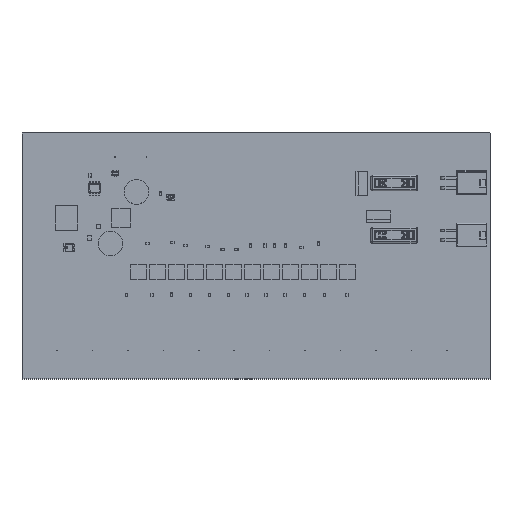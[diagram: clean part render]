
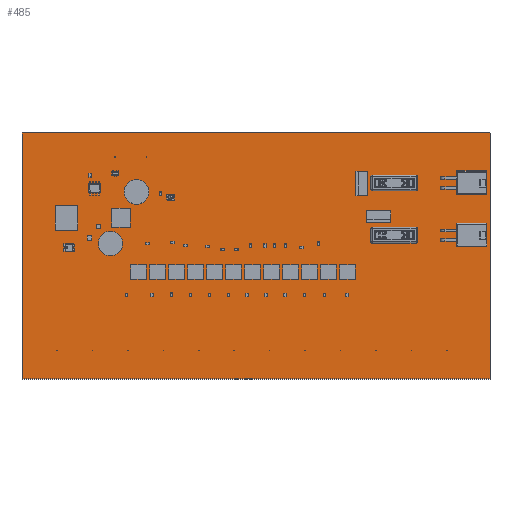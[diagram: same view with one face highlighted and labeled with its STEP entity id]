
A CAD part, top view. The second image highlights one B-rep face of the part: STEP entity #485.
In plain terms, the highlighted planar face has unit normal (0, 0, 1).
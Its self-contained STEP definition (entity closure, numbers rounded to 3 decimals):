
#324 = VERTEX_POINT('',#325);
#325 = CARTESIAN_POINT('',(0.,0.,0.411));
#331 = EDGE_CURVE('',#324,#332,#334,.T.);
#332 = VERTEX_POINT('',#333);
#333 = CARTESIAN_POINT('',(200.,0.,0.411));
#334 = LINE('',#335,#336);
#335 = CARTESIAN_POINT('',(0.,0.,0.411));
#336 = VECTOR('',#337,1.);
#337 = DIRECTION('',(1.,0.,0.));
#362 = EDGE_CURVE('',#332,#363,#365,.T.);
#363 = VERTEX_POINT('',#364);
#364 = CARTESIAN_POINT('',(200.,105.,0.411));
#365 = LINE('',#366,#367);
#366 = CARTESIAN_POINT('',(200.,0.,0.411));
#367 = VECTOR('',#368,1.);
#368 = DIRECTION('',(0.,1.,0.));
#393 = EDGE_CURVE('',#363,#394,#396,.T.);
#394 = VERTEX_POINT('',#395);
#395 = CARTESIAN_POINT('',(199.872,105.128,0.411));
#396 = LINE('',#397,#398);
#397 = CARTESIAN_POINT('',(200.,105.,0.411));
#398 = VECTOR('',#399,1.);
#399 = DIRECTION('',(-0.707,0.707,0.));
#424 = EDGE_CURVE('',#394,#425,#427,.T.);
#425 = VERTEX_POINT('',#426);
#426 = CARTESIAN_POINT('',(0.156,105.128,0.411));
#427 = LINE('',#428,#429);
#428 = CARTESIAN_POINT('',(199.872,105.128,0.411));
#429 = VECTOR('',#430,1.);
#430 = DIRECTION('',(-1.,0.,0.));
#455 = EDGE_CURVE('',#425,#324,#456,.T.);
#456 = LINE('',#457,#458);
#457 = CARTESIAN_POINT('',(0.156,105.128,0.411));
#458 = VECTOR('',#459,1.);
#459 = DIRECTION('',(-0.001,-1.,0.));
#485 = ADVANCED_FACE('',(#486),#493,.F.);
#486 = FACE_BOUND('',#487,.T.);
#487 = EDGE_LOOP('',(#488,#489,#490,#491,#492));
#488 = ORIENTED_EDGE('',*,*,#331,.T.);
#489 = ORIENTED_EDGE('',*,*,#362,.T.);
#490 = ORIENTED_EDGE('',*,*,#393,.T.);
#491 = ORIENTED_EDGE('',*,*,#424,.T.);
#492 = ORIENTED_EDGE('',*,*,#455,.T.);
#493 = PLANE('',#494);
#494 = AXIS2_PLACEMENT_3D('',#495,#496,#497);
#495 = CARTESIAN_POINT('',(0.,0.,0.411));
#496 = DIRECTION('',(0.,0.,-1.));
#497 = DIRECTION('',(-1.,0.,0.));
